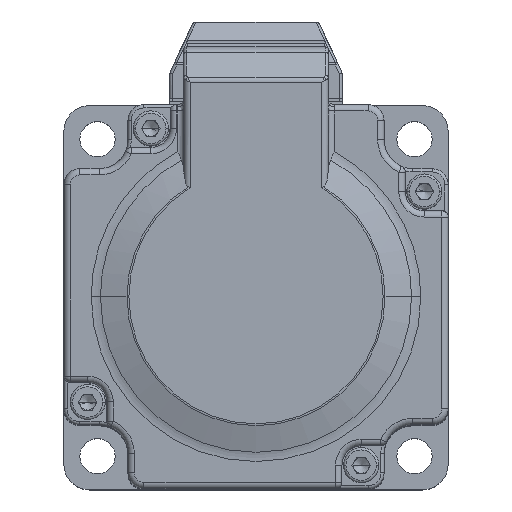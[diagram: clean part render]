
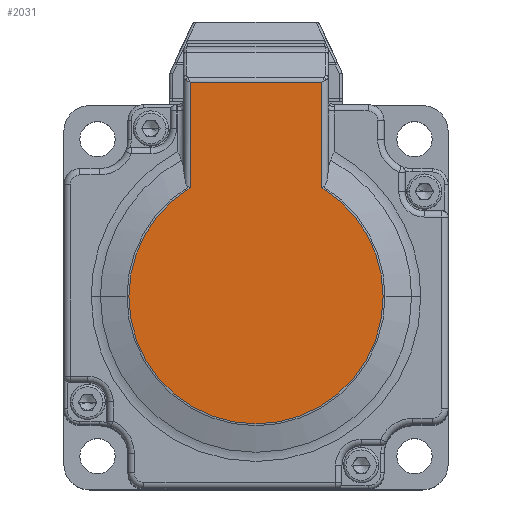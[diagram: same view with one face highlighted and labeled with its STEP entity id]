
A CAD part, top view. The second image highlights one B-rep face of the part: STEP entity #2031.
In plain terms, the highlighted planar face has unit normal (0, 0, 1).
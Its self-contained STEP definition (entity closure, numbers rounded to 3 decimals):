
#2031 = ADVANCED_FACE ( 'NONE', ( #33819 ), #36620, .T. ) ;
#2163 = AXIS2_PLACEMENT_3D ( 'NONE', #37124, #16689, #22306 ) ;
#2660 = DIRECTION ( 'NONE',  ( 0., 0., 1. ) ) ;
#3523 = CARTESIAN_POINT ( 'NONE',  ( -11.3, 33.486, 112.2 ) ) ;
#4762 = VECTOR ( 'NONE', #5404, 1000. ) ;
#5178 = CARTESIAN_POINT ( 'NONE',  ( -10.3, 16.502, 112.2 ) ) ;
#5404 = DIRECTION ( 'NONE',  ( 0., -1., 0. ) ) ;
#6154 = CARTESIAN_POINT ( 'NONE',  ( 0., 0., 112.2 ) ) ;
#6542 = CARTESIAN_POINT ( 'NONE',  ( 10.3, 16.972, 112.2 ) ) ;
#9391 = CARTESIAN_POINT ( 'NONE',  ( 10.3, 33.486, 112.2 ) ) ;
#9597 = DIRECTION ( 'NONE',  ( -1., 0., 0. ) ) ;
#11633 = DIRECTION ( 'NONE',  ( 0., 0., 1. ) ) ;
#11956 = LINE ( 'NONE', #5178, #4762 ) ;
#12588 = EDGE_CURVE ( 'NONE', #31715, #27517, #21547, .T. ) ;
#13799 = VERTEX_POINT ( 'NONE', #28526 ) ;
#14783 = ORIENTED_EDGE ( 'NONE', *, *, #20921, .T. ) ;
#14960 = DIRECTION ( 'NONE',  ( 0., 0., 1. ) ) ;
#15639 = VECTOR ( 'NONE', #20275, 1000. ) ;
#15841 = EDGE_CURVE ( 'NONE', #32551, #31715, #35888, .T. ) ;
#16689 = DIRECTION ( 'NONE',  ( 0., 0., 1. ) ) ;
#18823 = CIRCLE ( 'NONE', #19030, 19.853 ) ;
#19030 = AXIS2_PLACEMENT_3D ( 'NONE', #34641, #11633, #37505 ) ;
#20004 = CARTESIAN_POINT ( 'NONE',  ( 0., 0., 112.2 ) ) ;
#20275 = DIRECTION ( 'NONE',  ( 0., 1., 0. ) ) ;
#20811 = DIRECTION ( 'NONE',  ( 1., 0., 0. ) ) ;
#20921 = EDGE_CURVE ( 'NONE', #27517, #13799, #30212, .T. ) ;
#21468 = AXIS2_PLACEMENT_3D ( 'NONE', #6154, #14960, #20811 ) ;
#21547 = LINE ( 'NONE', #25869, #15639 ) ;
#22306 = DIRECTION ( 'NONE',  ( 1., 0., 0. ) ) ;
#22511 = VECTOR ( 'NONE', #9597, 1000. ) ;
#22564 = EDGE_CURVE ( 'NONE', #30853, #33937, #28775, .T. ) ;
#24292 = ORIENTED_EDGE ( 'NONE', *, *, #29775, .T. ) ;
#25869 = CARTESIAN_POINT ( 'NONE',  ( 10.3, 33.9, 112.2 ) ) ;
#26850 = ORIENTED_EDGE ( 'NONE', *, *, #30214, .T. ) ;
#27517 = VERTEX_POINT ( 'NONE', #9391 ) ;
#28526 = CARTESIAN_POINT ( 'NONE',  ( -10.3, 33.486, 112.2 ) ) ;
#28530 = CARTESIAN_POINT ( 'NONE',  ( 19.853, 0., 112.2 ) ) ;
#28625 = ORIENTED_EDGE ( 'NONE', *, *, #12588, .T. ) ;
#28775 = CIRCLE ( 'NONE', #21468, 19.853 ) ;
#29775 = EDGE_CURVE ( 'NONE', #33937, #32551, #18823, .T. ) ;
#30212 = LINE ( 'NONE', #3523, #22511 ) ;
#30214 = EDGE_CURVE ( 'NONE', #13799, #30853, #11956, .T. ) ;
#30532 = AXIS2_PLACEMENT_3D ( 'NONE', #20004, #2660, #31670 ) ;
#30853 = VERTEX_POINT ( 'NONE', #34295 ) ;
#31533 = ORIENTED_EDGE ( 'NONE', *, *, #22564, .T. ) ;
#31670 = DIRECTION ( 'NONE',  ( 1., 0., 0. ) ) ;
#31715 = VERTEX_POINT ( 'NONE', #6542 ) ;
#32079 = ORIENTED_EDGE ( 'NONE', *, *, #15841, .T. ) ;
#32551 = VERTEX_POINT ( 'NONE', #28530 ) ;
#33298 = CARTESIAN_POINT ( 'NONE',  ( -19.853, 0., 112.2 ) ) ;
#33819 = FACE_OUTER_BOUND ( 'NONE', #34843, .T. ) ;
#33937 = VERTEX_POINT ( 'NONE', #33298 ) ;
#34295 = CARTESIAN_POINT ( 'NONE',  ( -10.3, 16.972, 112.2 ) ) ;
#34641 = CARTESIAN_POINT ( 'NONE',  ( 0., 0., 112.2 ) ) ;
#34843 = EDGE_LOOP ( 'NONE', ( #14783, #26850, #31533, #24292, #32079, #28625 ) ) ;
#35888 = CIRCLE ( 'NONE', #30532, 19.853 ) ;
#36620 = PLANE ( 'NONE',  #2163 ) ;
#37124 = CARTESIAN_POINT ( 'NONE',  ( 0., 0., 112.2 ) ) ;
#37505 = DIRECTION ( 'NONE',  ( 1., 0., 0. ) ) ;
